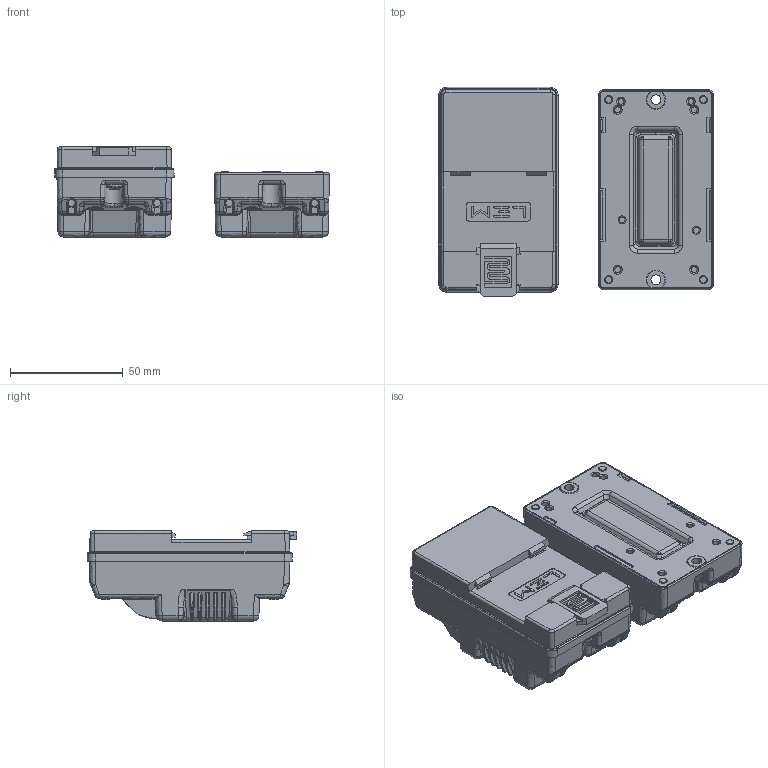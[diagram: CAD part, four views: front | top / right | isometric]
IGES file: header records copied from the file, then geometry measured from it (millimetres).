
Start section: Elysium IGES Interface
Global section: file name: C:\Users\scy\Documents\PROJETS\LWSR\CAD\FGDJ.igs; native system: Creo Elements/Direct Modeling 20.1  10-Mar-2018; preprocessor: Creo Element/Direct IGES_3D V2.2; author: Unknown; organization: Unknown; date: 20200722.145447; units: millimetre
Bounding box: 122.05 x 93.08 x 40 mm (x, y, z)
Volume: 242578.7 mm3; surface area: 44475.7 mm2
Topology: 2 solids, 13 shells, 3089 faces, 7500 edges, 4448 vertices
Faces by surface type: bspline 3089
